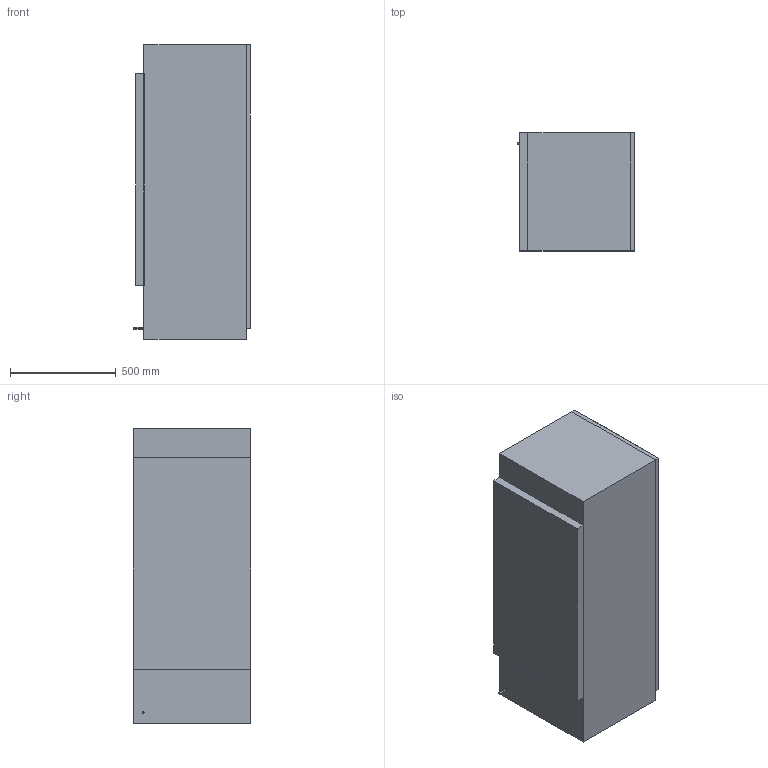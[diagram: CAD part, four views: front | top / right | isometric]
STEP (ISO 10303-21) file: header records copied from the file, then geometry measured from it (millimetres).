
FILE_DESCRIPTION(/* description */ (''),/* implementation_level */ '2;1');
FILE_NAME(/* name */ 'K35442iF',/* time_stamp */ '2013-03-12T18:25:35+01:00',/* author */ (''),/* organization */ (''),/* preprocessor_version */ 'ST-DEVELOPER v10',/* originating_system */ '',/* authorisation */ '');
FILE_SCHEMA (('AUTOMOTIVE_DESIGN_CC2'));
Length unit declared in the file: millimetre
Products named in the file (1): 1
Bounding box: 555.05 x 559 x 1395 mm (x, y, z)
Volume: 414849962.3 mm3; surface area: 6325792.1 mm2
Topology: 5 solids, 5 shells, 40 faces, 92 edges, 58 vertices
Faces by surface type: bspline 40
Entity records: 1317 total; most frequent: CARTESIAN_POINT 677, ORIENTED_EDGE 176, EDGE_CURVE 88, B_SPLINE_CURVE_WITH_KNOTS 88, VERTEX_POINT 58, ADVANCED_FACE 40, FACE_OUTER_BOUND 40, EDGE_LOOP 40
